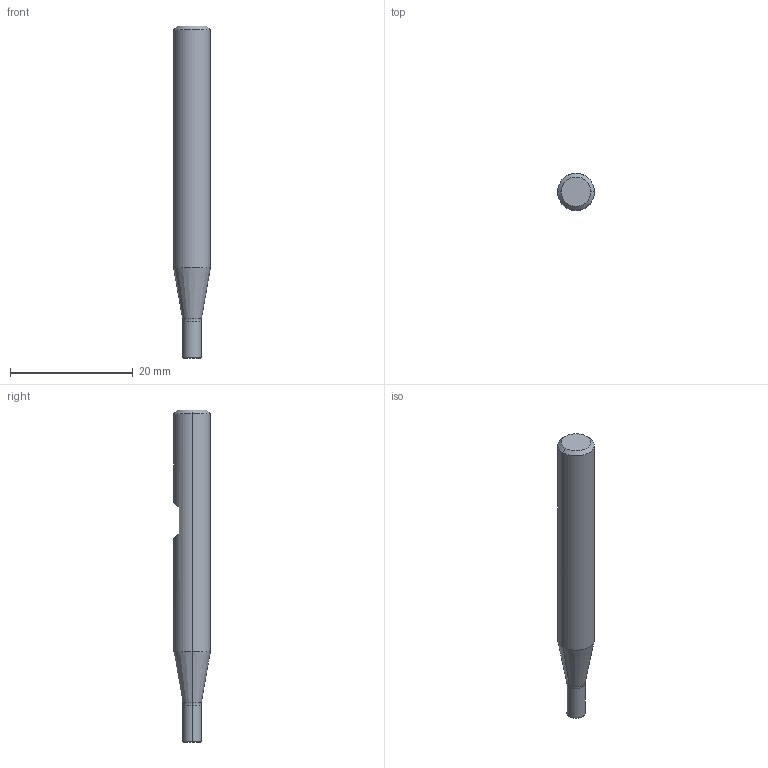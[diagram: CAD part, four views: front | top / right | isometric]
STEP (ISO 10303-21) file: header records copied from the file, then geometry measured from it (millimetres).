
FILE_DESCRIPTION (( 'STEP AP214' ), '1' );
FILE_NAME ('1.741.030.10_3D-model.step', '2022-02-15T17:46:20', ( '' ), ( '' ), 'SwSTEP 2.0', 'SolidWorks 2020', '' );
FILE_SCHEMA (( 'AUTOMOTIVE_DESIGN' ));
Length unit declared in the file: millimetre
Products named in the file (3): NOCUT-3D^Baugr158; CUT-3D^Baugr158; 1.741.030.10_3D-model
Assembly tree (2 placements, depth 2):
  1.741.030.10_3D-model
    CUT-3D^Baugr158
    NOCUT-3D^Baugr158
Bounding box: 6 x 6 x 54 mm (x, y, z)
Volume: 1279.3 mm3; surface area: 963.1 mm2
Topology: 2 solids, 2 shells, 19 faces, 34 edges, 20 vertices
Faces by surface type: plane 7, cone 6, cylinder 4, torus 2
Entity records: 584 total; most frequent: DIRECTION 104, CARTESIAN_POINT 87, ORIENTED_EDGE 68, AXIS2_PLACEMENT_3D 45, EDGE_CURVE 34, EDGE_LOOP 20, VERTEX_POINT 20, ADVANCED_FACE 19
